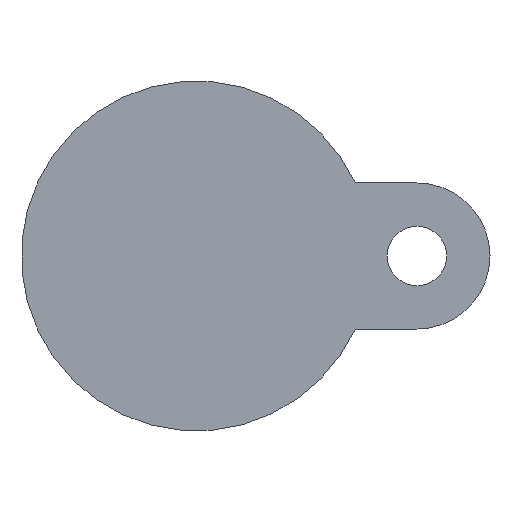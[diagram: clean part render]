
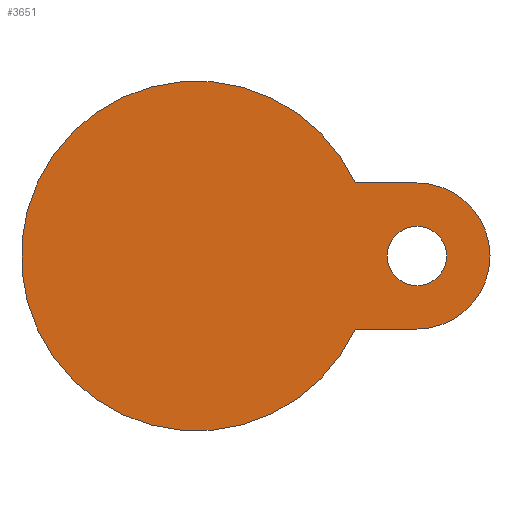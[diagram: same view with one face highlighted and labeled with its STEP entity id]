
A CAD part, front view. The second image highlights one B-rep face of the part: STEP entity #3651.
In plain terms, the highlighted planar face has unit normal (0, -1, 0).
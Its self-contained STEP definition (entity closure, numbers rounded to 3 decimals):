
#147 = LINE ( 'NONE', #565, #2253 ) ;
#170 = CARTESIAN_POINT ( 'NONE',  ( 51.5, -28., 0. ) ) ;
#205 = VERTEX_POINT ( 'NONE', #1454 ) ;
#278 = DIRECTION ( 'NONE',  ( 0., 1., 0. ) ) ;
#557 = ORIENTED_EDGE ( 'NONE', *, *, #3316, .F. ) ;
#565 = CARTESIAN_POINT ( 'NONE',  ( 36.5, -28., -21.5 ) ) ;
#611 = VERTEX_POINT ( 'NONE', #3343 ) ;
#620 = CARTESIAN_POINT ( 'NONE',  ( 65., -28., 0. ) ) ;
#693 = CARTESIAN_POINT ( 'NONE',  ( 0., -28., 0. ) ) ;
#831 = ORIENTED_EDGE ( 'NONE', *, *, #849, .F. ) ;
#849 = EDGE_CURVE ( 'NONE', #611, #4154, #3942, .T. ) ;
#884 = CIRCLE ( 'NONE', #1891, 51.5 ) ;
#893 = ORIENTED_EDGE ( 'NONE', *, *, #2604, .T. ) ;
#957 = AXIS2_PLACEMENT_3D ( 'NONE', #620, #278, #2001 ) ;
#1092 = CARTESIAN_POINT ( 'NONE',  ( 36.5, -28., 21.5 ) ) ;
#1148 = EDGE_LOOP ( 'NONE', ( #893, #2085 ) ) ;
#1178 = VERTEX_POINT ( 'NONE', #3564 ) ;
#1267 = DIRECTION ( 'NONE',  ( 1., 0., 0. ) ) ;
#1365 = CARTESIAN_POINT ( 'NONE',  ( 65., -28., 0. ) ) ;
#1400 = DIRECTION ( 'NONE',  ( 0., -1., 0. ) ) ;
#1454 = CARTESIAN_POINT ( 'NONE',  ( 46.797, -28., 21.5 ) ) ;
#1690 = AXIS2_PLACEMENT_3D ( 'NONE', #170, #1924, #1267 ) ;
#1728 = CARTESIAN_POINT ( 'NONE',  ( 46.797, -28., -21.5 ) ) ;
#1840 = DIRECTION ( 'NONE',  ( -1., 0., 0. ) ) ;
#1891 = AXIS2_PLACEMENT_3D ( 'NONE', #693, #1400, #2022 ) ;
#1924 = DIRECTION ( 'NONE',  ( 0., -1., 0. ) ) ;
#2001 = DIRECTION ( 'NONE',  ( -1., 0., 0. ) ) ;
#2006 = AXIS2_PLACEMENT_3D ( 'NONE', #1365, #3049, #2324 ) ;
#2022 = DIRECTION ( 'NONE',  ( 1., 0., 0. ) ) ;
#2085 = ORIENTED_EDGE ( 'NONE', *, *, #3112, .T. ) ;
#2097 = CARTESIAN_POINT ( 'NONE',  ( 56.25, -28., 0. ) ) ;
#2172 = DIRECTION ( 'NONE',  ( 0., 1., 0. ) ) ;
#2253 = VECTOR ( 'NONE', #3298, 1000. ) ;
#2324 = DIRECTION ( 'NONE',  ( 1., 0., 0. ) ) ;
#2394 = VECTOR ( 'NONE', #2803, 1000. ) ;
#2494 = CARTESIAN_POINT ( 'NONE',  ( 65., -28., -21.5 ) ) ;
#2604 = EDGE_CURVE ( 'NONE', #3545, #1178, #2679, .T. ) ;
#2617 = ORIENTED_EDGE ( 'NONE', *, *, #3670, .F. ) ;
#2679 = CIRCLE ( 'NONE', #3263, 8.75 ) ;
#2803 = DIRECTION ( 'NONE',  ( 1., 0., 0. ) ) ;
#3049 = DIRECTION ( 'NONE',  ( 0., 1., 0. ) ) ;
#3112 = EDGE_CURVE ( 'NONE', #1178, #3545, #3688, .T. ) ;
#3192 = EDGE_CURVE ( 'NONE', #205, #4177, #884, .T. ) ;
#3263 = AXIS2_PLACEMENT_3D ( 'NONE', #3542, #2172, #1840 ) ;
#3278 = FACE_BOUND ( 'NONE', #1148, .T. ) ;
#3298 = DIRECTION ( 'NONE',  ( -1., 0., 0. ) ) ;
#3316 = EDGE_CURVE ( 'NONE', #205, #611, #3524, .T. ) ;
#3343 = CARTESIAN_POINT ( 'NONE',  ( 65., -28., 21.5 ) ) ;
#3524 = LINE ( 'NONE', #1092, #2394 ) ;
#3542 = CARTESIAN_POINT ( 'NONE',  ( 65., -28., 0. ) ) ;
#3545 = VERTEX_POINT ( 'NONE', #2097 ) ;
#3564 = CARTESIAN_POINT ( 'NONE',  ( 73.75, -28., 0. ) ) ;
#3651 = ADVANCED_FACE ( 'NONE', ( #3278, #3654 ), #4315, .T. ) ;
#3654 = FACE_OUTER_BOUND ( 'NONE', #4339, .T. ) ;
#3670 = EDGE_CURVE ( 'NONE', #4154, #4177, #147, .T. ) ;
#3688 = CIRCLE ( 'NONE', #957, 8.75 ) ;
#3942 = CIRCLE ( 'NONE', #2006, 21.5 ) ;
#4094 = ORIENTED_EDGE ( 'NONE', *, *, #3192, .T. ) ;
#4154 = VERTEX_POINT ( 'NONE', #2494 ) ;
#4177 = VERTEX_POINT ( 'NONE', #1728 ) ;
#4315 = PLANE ( 'NONE',  #1690 ) ;
#4339 = EDGE_LOOP ( 'NONE', ( #4094, #2617, #831, #557 ) ) ;
